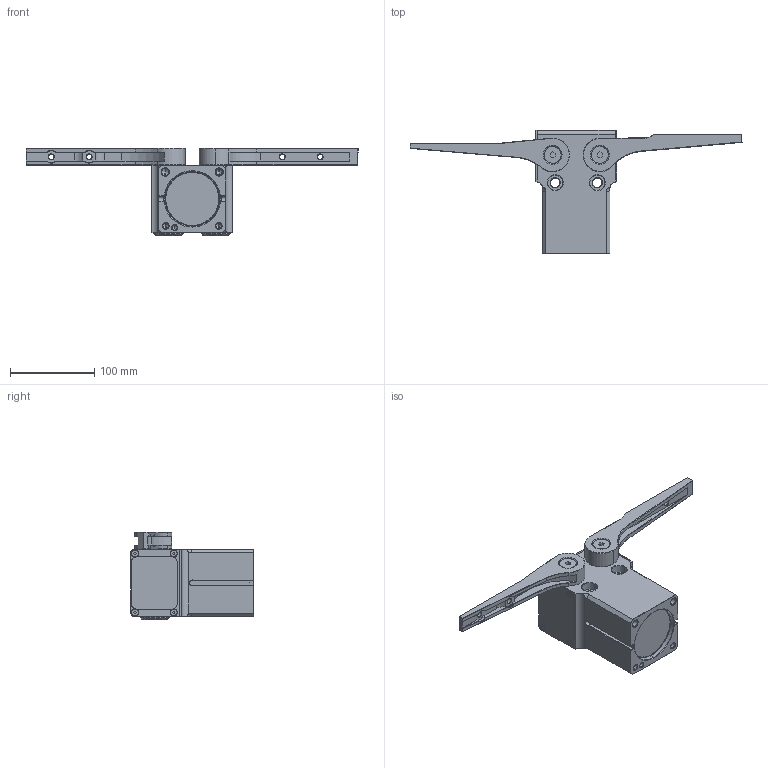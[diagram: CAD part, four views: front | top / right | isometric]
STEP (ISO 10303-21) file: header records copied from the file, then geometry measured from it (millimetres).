
FILE_DESCRIPTION (( 'STEP AP214' ), '1' );
FILE_NAME ('SUMiSU-SDZGW801.STEP', '2026-03-27T06:05:43', ( '' ), ( '' ), 'SwSTEP 2.0', 'SolidWorks 2024', '' );
FILE_SCHEMA (( 'AUTOMOTIVE_DESIGN' ));
Length unit declared in the file: millimetre
Products named in the file (6): W801-02; W801-03; 132-0032-2101-B1_1; SUMiSU-SDZGW801; W801-01_CNC001; W801-04
Assembly tree (6 placements, depth 2):
  SUMiSU-SDZGW801
    W801-01_CNC001
    132-0032-2101-B1_1
    W801-02
    W801-03
    W801-04  x2
Bounding box: 394.36 x 146 x 103.6 mm (x, y, z)
Volume: 617879.9 mm3; surface area: 170437.9 mm2
Topology: 6 solids, 14 shells, 681 faces, 1587 edges, 953 vertices
Faces by surface type: plane 288, cone 211, cylinder 172, bspline 8, torus 2
Entity records: 20171 total; most frequent: CARTESIAN_POINT 4996, DIRECTION 3157, ORIENTED_EDGE 3038, EDGE_CURVE 1519, AXIS2_PLACEMENT_3D 1112, VECTOR 933, LINE 933, VERTEX_POINT 931
